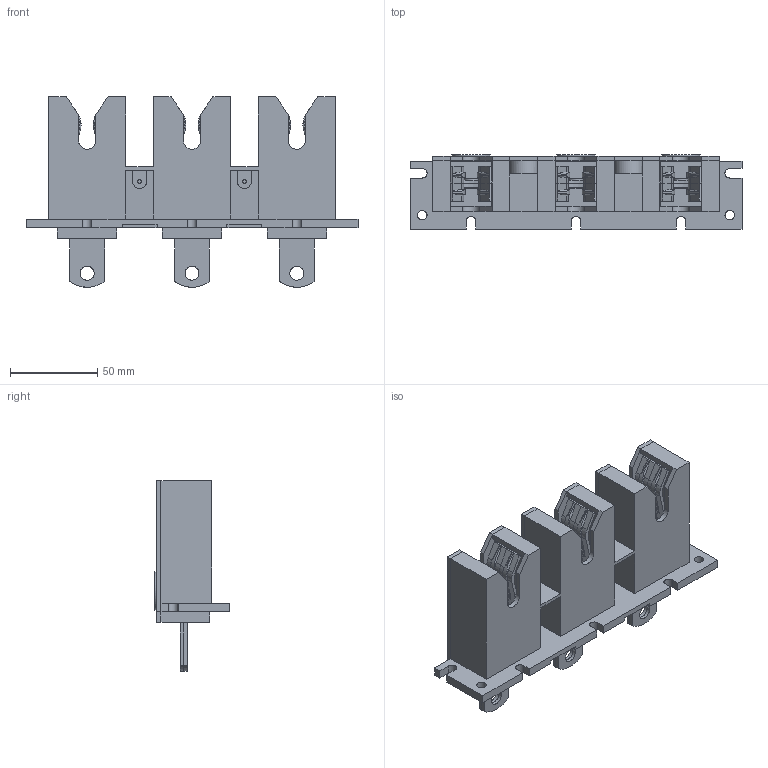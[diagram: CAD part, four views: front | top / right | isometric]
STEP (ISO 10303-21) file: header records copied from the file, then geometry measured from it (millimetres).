
FILE_DESCRIPTION(('FreeCAD Model'),'2;1');
FILE_NAME('S:/KENTAN/DESIGN/CAD BLOCKS/KENTAN PRODUCT RANGE/Busplugs/3D UP3400E.step','2019-08-01T10:56:03',('Author'),(''), 'Open CASCADE STEP processor 6.8','FreeCAD','Unknown');
FILE_SCHEMA(('AUTOMOTIVE_DESIGN_CC2 { 1 2 10303 214 -1 1 5 4 }'));
Length unit declared in the file: millimetre
Products named in the file (18): ASSEMBLY; _D_UP3400E001; _D_UP3400E009; _D_UP3400E016; _D_UP3400E005; _D_UP3400E015; _D_UP3400E013; _D_UP3400E002; _D_UP3400E014; _D_UP3400E003; _D_UP3400E004; _D_UP3400E006; _D_UP3400E011; _D_UP3400E012; _D_UP3400E007; _D_UP3400E008; _D_UP3400E010; _D_UP3400E
Assembly tree (17 placements, depth 2):
  ASSEMBLY
    _D_UP3400E001
    _D_UP3400E009
    _D_UP3400E016
    _D_UP3400E005
    _D_UP3400E015
    _D_UP3400E013
    _D_UP3400E002
    _D_UP3400E014
    _D_UP3400E003
    _D_UP3400E004
    _D_UP3400E006
    _D_UP3400E011
    _D_UP3400E012
    _D_UP3400E007
    _D_UP3400E008
    _D_UP3400E010
    _D_UP3400E
Bounding box: 190 x 42.5 x 108.99 mm (x, y, z)
Volume: 150943 mm3; surface area: 125618.3 mm2
Topology: 16 solids, 16 shells, 969 faces, 2696 edges, 1771 vertices
Faces by surface type: bspline 969
Entity records: 164275 total; most frequent: CARTESIAN_POINT 126883, B_SPLINE_CURVE_WITH_KNOTS 6431, ORIENTED_EDGE 5386, PCURVE 5386, DEFINITIONAL_REPRESENTATION 5386, EDGE_CURVE 2693, SURFACE_CURVE 2663, VERTEX_POINT 1765
